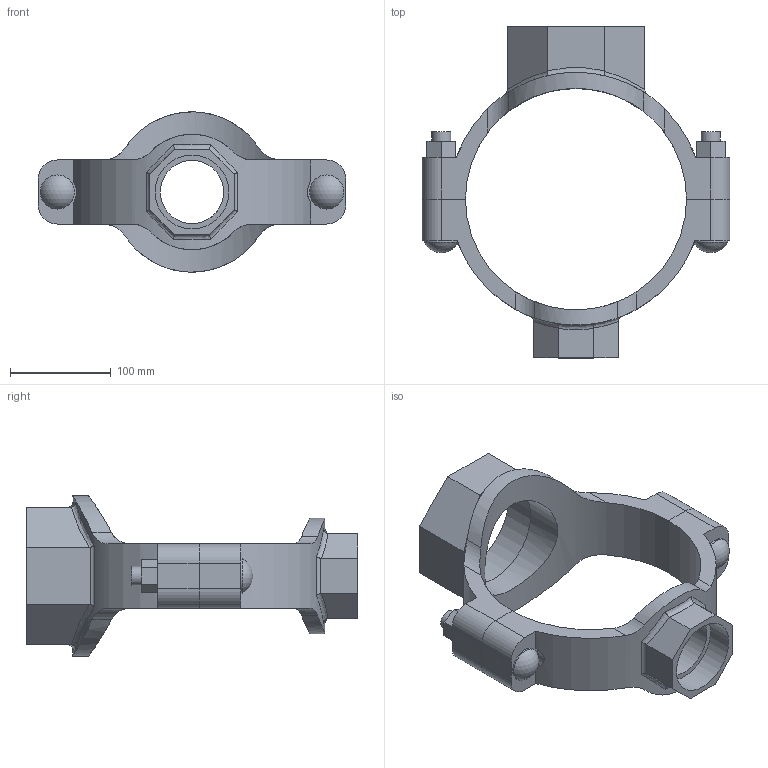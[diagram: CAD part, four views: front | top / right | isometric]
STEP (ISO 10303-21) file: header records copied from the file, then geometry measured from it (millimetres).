
FILE_DESCRIPTION(/* description */ ('VIC MECH-T BRANCH OUTLET CROSS STYLE 920N (THD)','CAx-IF Rec.Pracs.---Representation and Presentation of Product Manufacturing Information (PMI)---4.0---2014-10-13'),/* implementation_level */ '2;1');
FILE_NAME(/* name */ 'C:\Users\Vjadhav\AppData\Roaming\Autodesk\ApplicationPlugins\Back Up\Victaulic_IPS_Mechanical-Cross Outlet_Style 920N (FPT)\Victaulic_IPS_Mechanical-Cross Outlet_08.0x04.0x02.5 (200x100x65).stp',/* time_stamp */ '2020-08-06T19:01:13+06:00',/* author */ ('Vjadhav'),/* organization */ ('Victaulic'),/* preprocessor_version */ 'ST-DEVELOPER v17.2',/* originating_system */ 'Autodesk Inventor 2019',/* authorisation */ '');
FILE_SCHEMA (('AP242_MANAGED_MODEL_BASED_3D_ENGINEERING_MIM_LF { 1 0 10303 442 1 1 4 }'));
Length unit declared in the file: inch
Products named in the file (3): 920NT-08.0x04.0x02.5; 920T-08.0x04.0; 920T-08.0x02.5
Assembly tree (2 placements, depth 2):
  920NT-08.0x04.0x02.5
    920T-08.0x04.0
    920T-08.0x02.5
Bounding box: 304.8 x 328.68 x 158.74 mm (x, y, z)
Volume: 1439221.9 mm3; surface area: 246333.9 mm2
Topology: 2 solids, 2 shells, 132 faces, 350 edges, 236 vertices
Faces by surface type: plane 68, cylinder 50, bspline 8, torus 4, sphere 2
Full cylindrical faces by diameter (mm): 19.05 x4, 33.843 x2, 62.738 x1, 73.025 x1, 102.394 x1, 114.3 x1
Entity records: 5246 total; most frequent: CARTESIAN_POINT 1733, ORIENTED_EDGE 700, DIRECTION 648, EDGE_CURVE 350, VERTEX_POINT 236, AXIS2_PLACEMENT_3D 231, LINE 186, VECTOR 186
